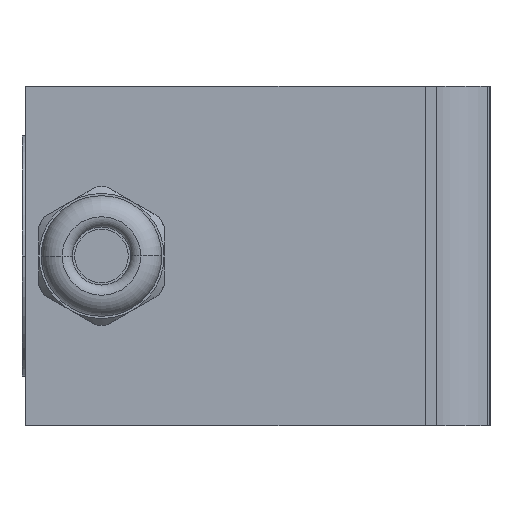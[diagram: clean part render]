
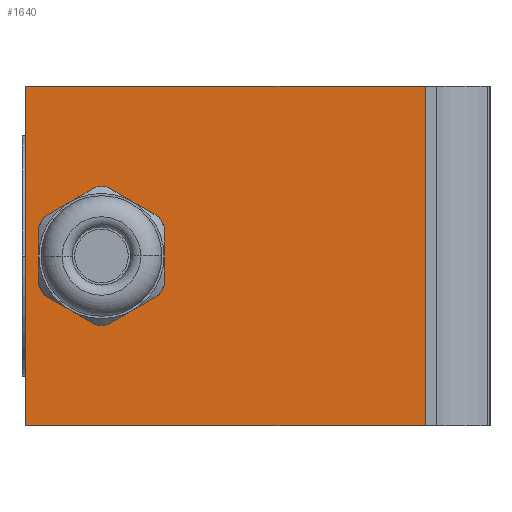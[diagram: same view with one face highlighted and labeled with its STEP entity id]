
A CAD part, left-side view. The second image highlights one B-rep face of the part: STEP entity #1640.
In plain terms, the highlighted planar face has unit normal (-1, 0, 0).
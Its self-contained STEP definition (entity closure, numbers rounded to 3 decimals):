
#32=DIRECTION('',(0.,-1.,0.));
#33=VECTOR('',#32,44.75);
#34=CARTESIAN_POINT('',(-78.,26.,-19.));
#35=LINE('',#34,#33);
#394=DIRECTION('',(0.,0.,1.));
#395=VECTOR('',#394,38.);
#396=CARTESIAN_POINT('',(-78.,-18.75,-19.));
#397=LINE('',#396,#395);
#398=DIRECTION('',(0.,0.,1.));
#399=VECTOR('',#398,38.);
#400=CARTESIAN_POINT('',(-78.,26.,-19.));
#401=LINE('',#400,#399);
#402=CARTESIAN_POINT('',(-78.,17.5,0.));
#403=DIRECTION('',(-1.,0.,0.));
#404=DIRECTION('',(0.,1.,0.));
#405=AXIS2_PLACEMENT_3D('',#402,#403,#404);
#407=CARTESIAN_POINT('',(-78.,17.5,0.));
#408=DIRECTION('',(-1.,0.,0.));
#409=DIRECTION('',(0.,-1.,0.));
#410=AXIS2_PLACEMENT_3D('',#407,#408,#409);
#488=DIRECTION('',(0.,-1.,0.));
#489=VECTOR('',#488,44.75);
#490=CARTESIAN_POINT('',(-78.,26.,19.));
#491=LINE('',#490,#489);
#789=CARTESIAN_POINT('',(-78.,26.,-19.));
#790=CARTESIAN_POINT('',(-78.,26.,19.));
#791=VERTEX_POINT('',#789);
#792=VERTEX_POINT('',#790);
#909=CARTESIAN_POINT('',(-78.,-18.75,-19.));
#910=CARTESIAN_POINT('',(-78.,-18.75,19.));
#911=VERTEX_POINT('',#909);
#912=VERTEX_POINT('',#910);
#950=CARTESIAN_POINT('',(-78.,22.,0.));
#951=CARTESIAN_POINT('',(-78.,13.,0.));
#952=VERTEX_POINT('',#950);
#953=VERTEX_POINT('',#951);
#1621=CARTESIAN_POINT('',(-78.,26.,-19.));
#1622=DIRECTION('',(-1.,0.,0.));
#1623=DIRECTION('',(0.,-1.,0.));
#1624=AXIS2_PLACEMENT_3D('',#1621,#1622,#1623);
#1625=PLANE('',#1624);
#1626=ORIENTED_EDGE('',*,*,#1382,.F.);
#1627=ORIENTED_EDGE('',*,*,#1009,.F.);
#1629=ORIENTED_EDGE('',*,*,#1628,.T.);
#1631=ORIENTED_EDGE('',*,*,#1630,.T.);
#1632=EDGE_LOOP('',(#1626,#1627,#1629,#1631));
#1633=FACE_OUTER_BOUND('',#1632,.F.);
#1635=ORIENTED_EDGE('',*,*,#1634,.T.);
#1637=ORIENTED_EDGE('',*,*,#1636,.T.);
#1638=EDGE_LOOP('',(#1635,#1637));
#1639=FACE_BOUND('',#1638,.F.);
#1640=ADVANCED_FACE('',(#1633,#1639),#1625,.T.);
#406=CIRCLE('',#405,4.5);
#411=CIRCLE('',#410,4.5);
#1009=EDGE_CURVE('',#791,#911,#35,.T.);
#1382=EDGE_CURVE('',#911,#912,#397,.T.);
#1628=EDGE_CURVE('',#791,#792,#401,.T.);
#1630=EDGE_CURVE('',#792,#912,#491,.T.);
#1634=EDGE_CURVE('',#952,#953,#406,.T.);
#1636=EDGE_CURVE('',#953,#952,#411,.T.);
